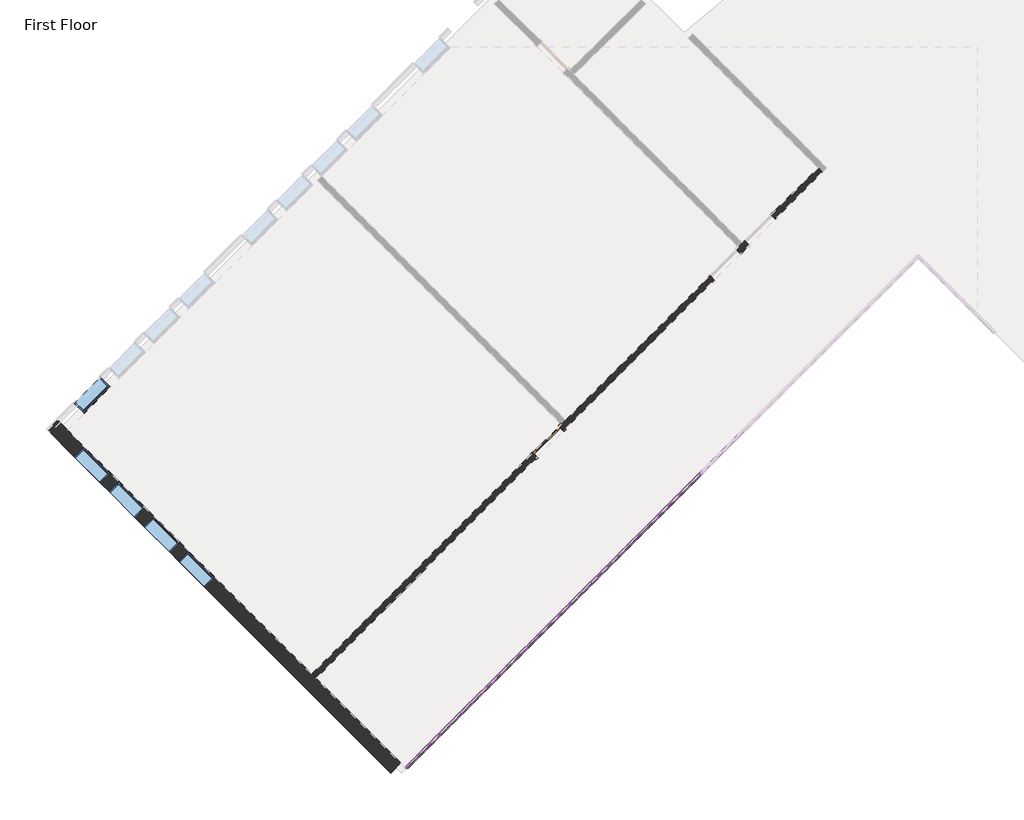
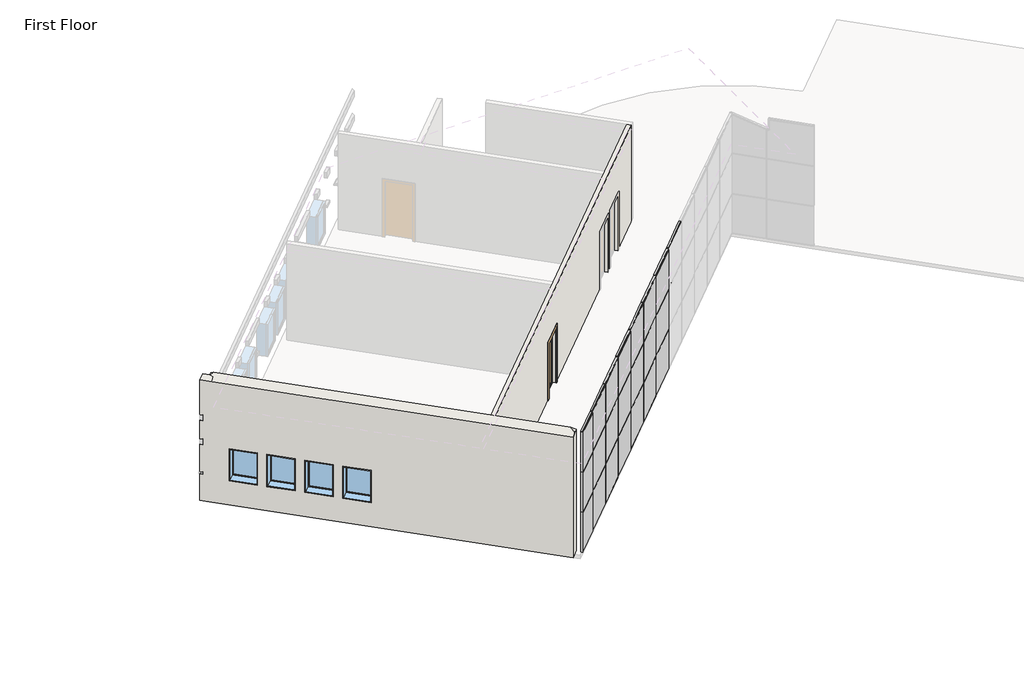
# One storey, part 1 of 5: 55 members, 21 plates, 5 windows, 2 walls, 1 door.
"""IFC4 building model written with IfcOpenShell, lengths in millimetres."""

from ifc_helpers import new_model, si_unit, origin, place, context, project, spatial, faceted_brep, transform, mapped, element, save
from components import door_b81abb0e, member_bd80eb51, member_155beb68, member_42be4715, member_6121af53, member_a3731390, member_b87a50da, system_panel_glazed_da345f4e, system_panel_glazed_b4114ee2, system_panel_solid_5fd6f37f, system_panel_solid_e1a07a15, system_panel_solid_2f1037e2, system_panel_solid_6e0f4c8d, window_15c49d37, window_0e2fc6ce

model = new_model("IFC4")

# Units and contexts
model_context = context("Model", 3, world=origin())
ifc_project = project(units=[si_unit("LENGTHUNIT", "METRE", prefix="MILLI")], contexts=[model_context])

# Site, building, storey
site = spatial("IfcSite", under=ifc_project)
building = spatial("IfcBuilding", under=site)
storey = spatial("IfcBuildingStorey", under=building, Name="First Floor", Elevation=0.0)

# Door
placement = place(None, origin())
door_shape = door_b81abb0e(model_context)
element("IfcDoor", 1, ObjectType="Single-Glass 1 : 36\" x 84\"", at=placement, inside=storey, context=model_context, shape_type="MappedRepresentation", body=[
    mapped(door_shape, transform((-12027.7718255, -1647.4849877, 0.0), x_axis=(0.7071067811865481, 0.7071067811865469, 0.0), y_axis=(-0.7071067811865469, 0.7071067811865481, 0.0), z_axis=(0.0, 0.0, 1.0))),
])

# Members
member_shape = member_bd80eb51(model_context)
element("IfcMember", 2, ObjectType="Rectangular Mullion : 1.5\" x 2.5\" Rectangular", at=placement, inside=storey, context=model_context, shape_type="MappedRepresentation", body=[
    mapped(member_shape, transform((-15523.4543029, -9702.8925106, 4572.0), x_axis=(0.0, 0.0, 1.0), y_axis=(-0.7071067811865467, 0.7071067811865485, 0.0), z_axis=(-0.7071067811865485, -0.7071067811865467, 0.0))),
])
member_2_shape = member_155beb68(model_context)
element("IfcMember", 3, ObjectType="Rectangular Mullion : 1.5\" x 2.5\" Rectangular", at=placement, inside=storey, context=model_context, shape_type="MappedRepresentation", body=[
    mapped(member_2_shape, transform((-8256.1820369, -2435.6202446, 0.0), x_axis=(-0.7071067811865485, -0.7071067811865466, 0.0), y_axis=(-0.7071067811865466, 0.7071067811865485, 0.0), z_axis=(0.0, 0.0, -1.0))),
])
element("IfcMember", 4, ObjectType="Rectangular Mullion : 1.5\" x 2.5\" Rectangular", at=placement, inside=storey, context=model_context, shape_type="MappedRepresentation", body=[
    mapped(member_2_shape, transform((-9333.8127715, -3513.2509792, 0.0), x_axis=(-0.7071067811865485, -0.7071067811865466, 0.0), y_axis=(-0.7071067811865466, 0.7071067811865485, 0.0), z_axis=(0.0, 0.0, -1.0))),
])
element("IfcMember", 5, ObjectType="Rectangular Mullion : 1.5\" x 2.5\" Rectangular", at=placement, inside=storey, context=model_context, shape_type="MappedRepresentation", body=[
    mapped(member_2_shape, transform((-10411.443506, -4590.8817137, 0.0), x_axis=(-0.7071067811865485, -0.7071067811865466, 0.0), y_axis=(-0.7071067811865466, 0.7071067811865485, 0.0), z_axis=(0.0, 0.0, -1.0))),
])
element("IfcMember", 6, ObjectType="Rectangular Mullion : 1.5\" x 2.5\" Rectangular", at=placement, inside=storey, context=model_context, shape_type="MappedRepresentation", body=[
    mapped(member_2_shape, transform((-11489.0742405, -5668.5124482, 0.0), x_axis=(-0.7071067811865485, -0.7071067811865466, 0.0), y_axis=(-0.7071067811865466, 0.7071067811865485, 0.0), z_axis=(0.0, 0.0, -1.0))),
])
element("IfcMember", 7, ObjectType="Rectangular Mullion : 1.5\" x 2.5\" Rectangular", at=placement, inside=storey, context=model_context, shape_type="MappedRepresentation", body=[
    mapped(member_2_shape, transform((-12566.7049751, -6746.1431827, 0.0), x_axis=(-0.7071067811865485, -0.7071067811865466, 0.0), y_axis=(-0.7071067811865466, 0.7071067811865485, 0.0), z_axis=(0.0, 0.0, -1.0))),
])
element("IfcMember", 8, ObjectType="Rectangular Mullion : 1.5\" x 2.5\" Rectangular", at=placement, inside=storey, context=model_context, shape_type="MappedRepresentation", body=[
    mapped(member_2_shape, transform((-13644.3357096, -7823.7739173, 0.0), x_axis=(-0.7071067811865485, -0.7071067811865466, 0.0), y_axis=(-0.7071067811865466, 0.7071067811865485, 0.0), z_axis=(0.0, 0.0, -1.0))),
])
element("IfcMember", 9, ObjectType="Rectangular Mullion : 1.5\" x 2.5\" Rectangular", at=placement, inside=storey, context=model_context, shape_type="MappedRepresentation", body=[
    mapped(member_2_shape, transform((-14721.9664441, -8901.4046518, 0.0), x_axis=(-0.7071067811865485, -0.7071067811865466, 0.0), y_axis=(-0.7071067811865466, 0.7071067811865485, 0.0), z_axis=(0.0, 0.0, -1.0))),
])
element("IfcMember", 10, ObjectType="Rectangular Mullion : 1.5\" x 2.5\" Rectangular", at=placement, inside=storey, context=model_context, shape_type="MappedRepresentation", body=[
    mapped(member_2_shape, transform((-8256.1820369, -2435.6202446, 3048.0), x_axis=(-0.7071067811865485, -0.7071067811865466, 0.0), y_axis=(-0.7071067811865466, 0.7071067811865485, 0.0), z_axis=(0.0, 0.0, -1.0))),
])
element("IfcMember", 11, ObjectType="Rectangular Mullion : 1.5\" x 2.5\" Rectangular", at=placement, inside=storey, context=model_context, shape_type="MappedRepresentation", body=[
    mapped(member_2_shape, transform((-9333.8127715, -3513.2509792, 3048.0), x_axis=(-0.7071067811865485, -0.7071067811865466, 0.0), y_axis=(-0.7071067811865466, 0.7071067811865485, 0.0), z_axis=(0.0, 0.0, -1.0))),
])
element("IfcMember", 12, ObjectType="Rectangular Mullion : 1.5\" x 2.5\" Rectangular", at=placement, inside=storey, context=model_context, shape_type="MappedRepresentation", body=[
    mapped(member_2_shape, transform((-10411.443506, -4590.8817137, 3048.0), x_axis=(-0.7071067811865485, -0.7071067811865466, 0.0), y_axis=(-0.7071067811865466, 0.7071067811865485, 0.0), z_axis=(0.0, 0.0, -1.0))),
])
element("IfcMember", 13, ObjectType="Rectangular Mullion : 1.5\" x 2.5\" Rectangular", at=placement, inside=storey, context=model_context, shape_type="MappedRepresentation", body=[
    mapped(member_2_shape, transform((-11489.0742405, -5668.5124482, 3048.0), x_axis=(-0.7071067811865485, -0.7071067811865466, 0.0), y_axis=(-0.7071067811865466, 0.7071067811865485, 0.0), z_axis=(0.0, 0.0, -1.0))),
])
element("IfcMember", 14, ObjectType="Rectangular Mullion : 1.5\" x 2.5\" Rectangular", at=placement, inside=storey, context=model_context, shape_type="MappedRepresentation", body=[
    mapped(member_2_shape, transform((-12566.7049751, -6746.1431827, 3048.0), x_axis=(-0.7071067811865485, -0.7071067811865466, 0.0), y_axis=(-0.7071067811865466, 0.7071067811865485, 0.0), z_axis=(0.0, 0.0, -1.0))),
])
element("IfcMember", 15, ObjectType="Rectangular Mullion : 1.5\" x 2.5\" Rectangular", at=placement, inside=storey, context=model_context, shape_type="MappedRepresentation", body=[
    mapped(member_2_shape, transform((-13644.3357096, -7823.7739173, 3048.0), x_axis=(-0.7071067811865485, -0.7071067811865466, 0.0), y_axis=(-0.7071067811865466, 0.7071067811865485, 0.0), z_axis=(0.0, 0.0, -1.0))),
])
element("IfcMember", 16, ObjectType="Rectangular Mullion : 1.5\" x 2.5\" Rectangular", at=placement, inside=storey, context=model_context, shape_type="MappedRepresentation", body=[
    mapped(member_2_shape, transform((-14721.9664441, -8901.4046518, 3048.0), x_axis=(-0.7071067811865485, -0.7071067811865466, 0.0), y_axis=(-0.7071067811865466, 0.7071067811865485, 0.0), z_axis=(0.0, 0.0, -1.0))),
])
element("IfcMember", 17, ObjectType="Rectangular Mullion : 1.5\" x 2.5\" Rectangular", at=placement, inside=storey, context=model_context, shape_type="MappedRepresentation", body=[
    mapped(member_2_shape, transform((-8256.1820369, -2435.6202446, 1524.0), x_axis=(-0.7071067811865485, -0.7071067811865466, 0.0), y_axis=(-0.7071067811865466, 0.7071067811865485, 0.0), z_axis=(0.0, 0.0, -1.0))),
])
element("IfcMember", 18, ObjectType="Rectangular Mullion : 1.5\" x 2.5\" Rectangular", at=placement, inside=storey, context=model_context, shape_type="MappedRepresentation", body=[
    mapped(member_2_shape, transform((-9333.8127715, -3513.2509792, 1524.0), x_axis=(-0.7071067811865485, -0.7071067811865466, 0.0), y_axis=(-0.7071067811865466, 0.7071067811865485, 0.0), z_axis=(0.0, 0.0, -1.0))),
])
element("IfcMember", 19, ObjectType="Rectangular Mullion : 1.5\" x 2.5\" Rectangular", at=placement, inside=storey, context=model_context, shape_type="MappedRepresentation", body=[
    mapped(member_2_shape, transform((-10411.443506, -4590.8817137, 1524.0), x_axis=(-0.7071067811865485, -0.7071067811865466, 0.0), y_axis=(-0.7071067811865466, 0.7071067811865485, 0.0), z_axis=(0.0, 0.0, -1.0))),
])
element("IfcMember", 20, ObjectType="Rectangular Mullion : 1.5\" x 2.5\" Rectangular", at=placement, inside=storey, context=model_context, shape_type="MappedRepresentation", body=[
    mapped(member_2_shape, transform((-11489.0742405, -5668.5124482, 1524.0), x_axis=(-0.7071067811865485, -0.7071067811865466, 0.0), y_axis=(-0.7071067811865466, 0.7071067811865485, 0.0), z_axis=(0.0, 0.0, -1.0))),
])
element("IfcMember", 21, ObjectType="Rectangular Mullion : 1.5\" x 2.5\" Rectangular", at=placement, inside=storey, context=model_context, shape_type="MappedRepresentation", body=[
    mapped(member_2_shape, transform((-12566.7049751, -6746.1431827, 1524.0), x_axis=(-0.7071067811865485, -0.7071067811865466, 0.0), y_axis=(-0.7071067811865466, 0.7071067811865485, 0.0), z_axis=(0.0, 0.0, -1.0))),
])
element("IfcMember", 22, ObjectType="Rectangular Mullion : 1.5\" x 2.5\" Rectangular", at=placement, inside=storey, context=model_context, shape_type="MappedRepresentation", body=[
    mapped(member_2_shape, transform((-13644.3357096, -7823.7739173, 1524.0), x_axis=(-0.7071067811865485, -0.7071067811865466, 0.0), y_axis=(-0.7071067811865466, 0.7071067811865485, 0.0), z_axis=(0.0, 0.0, -1.0))),
])
element("IfcMember", 23, ObjectType="Rectangular Mullion : 1.5\" x 2.5\" Rectangular", at=placement, inside=storey, context=model_context, shape_type="MappedRepresentation", body=[
    mapped(member_2_shape, transform((-14721.9664441, -8901.4046518, 1524.0), x_axis=(-0.7071067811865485, -0.7071067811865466, 0.0), y_axis=(-0.7071067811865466, 0.7071067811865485, 0.0), z_axis=(0.0, 0.0, -1.0))),
])
member_3_shape = member_42be4715(model_context)
element("IfcMember", 24, ObjectType="Rectangular Mullion : 1.5\" x 2.5\" Rectangular", at=placement, inside=storey, context=model_context, shape_type="MappedRepresentation", body=[
    mapped(member_3_shape, transform((-8242.7116528, -2422.1498604, 1524.0), x_axis=(0.0, 0.0, 1.0), y_axis=(-0.7071067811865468, 0.7071067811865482, 0.0), z_axis=(-0.7071067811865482, -0.7071067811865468, 0.0))),
])
element("IfcMember", 25, ObjectType="Rectangular Mullion : 1.5\" x 2.5\" Rectangular", at=placement, inside=storey, context=model_context, shape_type="MappedRepresentation", body=[
    mapped(member_3_shape, transform((-9320.3423873, -3499.780595, 1524.0), x_axis=(0.0, 0.0, 1.0), y_axis=(-0.7071067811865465, 0.7071067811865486, 0.0), z_axis=(-0.7071067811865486, -0.7071067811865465, 0.0))),
])
element("IfcMember", 26, ObjectType="Rectangular Mullion : 1.5\" x 2.5\" Rectangular", at=placement, inside=storey, context=model_context, shape_type="MappedRepresentation", body=[
    mapped(member_3_shape, transform((-10397.9731218, -4577.4113295, 1524.0), x_axis=(0.0, 0.0, 1.0), y_axis=(-0.7071067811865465, 0.7071067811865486, 0.0), z_axis=(-0.7071067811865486, -0.7071067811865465, 0.0))),
])
element("IfcMember", 27, ObjectType="Rectangular Mullion : 1.5\" x 2.5\" Rectangular", at=placement, inside=storey, context=model_context, shape_type="MappedRepresentation", body=[
    mapped(member_3_shape, transform((-11475.6038564, -5655.042064, 1524.0), x_axis=(0.0, 0.0, 1.0), y_axis=(-0.7071067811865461, 0.707106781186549, 0.0), z_axis=(-0.7071067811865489, -0.707106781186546, 0.0))),
])
element("IfcMember", 28, ObjectType="Rectangular Mullion : 1.5\" x 2.5\" Rectangular", at=placement, inside=storey, context=model_context, shape_type="MappedRepresentation", body=[
    mapped(member_3_shape, transform((-12553.2345909, -6732.6727986, 1524.0), x_axis=(0.0, 0.0, 1.0), y_axis=(-0.7071067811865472, 0.7071067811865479, 0.0), z_axis=(-0.7071067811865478, -0.7071067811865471, 0.0))),
])
element("IfcMember", 29, ObjectType="Rectangular Mullion : 1.5\" x 2.5\" Rectangular", at=placement, inside=storey, context=model_context, shape_type="MappedRepresentation", body=[
    mapped(member_3_shape, transform((-13630.8653254, -7810.3035331, 1524.0), x_axis=(0.0, 0.0, 1.0), y_axis=(-0.7071067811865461, 0.707106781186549, 0.0), z_axis=(-0.707106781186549, -0.7071067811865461, 0.0))),
])
element("IfcMember", 30, ObjectType="Rectangular Mullion : 1.5\" x 2.5\" Rectangular", at=placement, inside=storey, context=model_context, shape_type="MappedRepresentation", body=[
    mapped(member_3_shape, transform((-14708.4960599, -8887.9342676, 1524.0), x_axis=(0.0, 0.0, 1.0), y_axis=(-0.7071067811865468, 0.7071067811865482, 0.0), z_axis=(-0.7071067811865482, -0.7071067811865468, 0.0))),
])
element("IfcMember", 31, ObjectType="Rectangular Mullion : 1.5\" x 2.5\" Rectangular", at=placement, inside=storey, context=model_context, shape_type="MappedRepresentation", body=[
    mapped(member_3_shape, transform((-8242.7116528, -2422.1498604, 3048.0), x_axis=(0.0, 0.0, 1.0), y_axis=(-0.7071067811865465, 0.7071067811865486, 0.0), z_axis=(-0.7071067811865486, -0.7071067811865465, 0.0))),
])
element("IfcMember", 32, ObjectType="Rectangular Mullion : 1.5\" x 2.5\" Rectangular", at=placement, inside=storey, context=model_context, shape_type="MappedRepresentation", body=[
    mapped(member_3_shape, transform((-9320.3423873, -3499.780595, 3048.0), x_axis=(0.0, 0.0, 1.0), y_axis=(-0.7071067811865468, 0.7071067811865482, 0.0), z_axis=(-0.7071067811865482, -0.7071067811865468, 0.0))),
])
element("IfcMember", 33, ObjectType="Rectangular Mullion : 1.5\" x 2.5\" Rectangular", at=placement, inside=storey, context=model_context, shape_type="MappedRepresentation", body=[
    mapped(member_3_shape, transform((-10397.9731218, -4577.4113295, 3048.0), x_axis=(0.0, 0.0, 1.0), y_axis=(-0.7071067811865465, 0.7071067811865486, 0.0), z_axis=(-0.7071067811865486, -0.7071067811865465, 0.0))),
])
element("IfcMember", 34, ObjectType="Rectangular Mullion : 1.5\" x 2.5\" Rectangular", at=placement, inside=storey, context=model_context, shape_type="MappedRepresentation", body=[
    mapped(member_3_shape, transform((-11475.6038564, -5655.042064, 3048.0), x_axis=(0.0, 0.0, 1.0), y_axis=(-0.7071067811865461, 0.707106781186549, 0.0), z_axis=(-0.7071067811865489, -0.707106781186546, 0.0))),
])
element("IfcMember", 35, ObjectType="Rectangular Mullion : 1.5\" x 2.5\" Rectangular", at=placement, inside=storey, context=model_context, shape_type="MappedRepresentation", body=[
    mapped(member_3_shape, transform((-12553.2345909, -6732.6727986, 3048.0), x_axis=(0.0, 0.0, 1.0), y_axis=(-0.7071067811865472, 0.7071067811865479, 0.0), z_axis=(-0.7071067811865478, -0.7071067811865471, 0.0))),
])
element("IfcMember", 36, ObjectType="Rectangular Mullion : 1.5\" x 2.5\" Rectangular", at=placement, inside=storey, context=model_context, shape_type="MappedRepresentation", body=[
    mapped(member_3_shape, transform((-13630.8653254, -7810.3035331, 3048.0), x_axis=(0.0, 0.0, 1.0), y_axis=(-0.7071067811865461, 0.707106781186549, 0.0), z_axis=(-0.707106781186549, -0.7071067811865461, 0.0))),
])
element("IfcMember", 37, ObjectType="Rectangular Mullion : 1.5\" x 2.5\" Rectangular", at=placement, inside=storey, context=model_context, shape_type="MappedRepresentation", body=[
    mapped(member_3_shape, transform((-14708.4960599, -8887.9342676, 3048.0), x_axis=(0.0, 0.0, 1.0), y_axis=(-0.7071067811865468, 0.7071067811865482, 0.0), z_axis=(-0.7071067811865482, -0.7071067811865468, 0.0))),
])
member_4_shape = member_6121af53(model_context)
element("IfcMember", 38, ObjectType="Rectangular Mullion : 1.5\" x 2.5\" Rectangular", at=placement, inside=storey, context=model_context, shape_type="MappedRepresentation", body=[
    mapped(member_4_shape, transform((-8269.6524211, -2449.0906288, 0.0), x_axis=(0.0, 0.0, -1.0), y_axis=(-0.7071067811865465, 0.7071067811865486, 0.0), z_axis=(0.7071067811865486, 0.7071067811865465, 0.0))),
])
element("IfcMember", 39, ObjectType="Rectangular Mullion : 1.5\" x 2.5\" Rectangular", at=placement, inside=storey, context=model_context, shape_type="MappedRepresentation", body=[
    mapped(member_4_shape, transform((-9347.2831557, -3526.7213633, 0.0), x_axis=(0.0, 0.0, -1.0), y_axis=(-0.7071067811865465, 0.7071067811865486, 0.0), z_axis=(0.7071067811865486, 0.7071067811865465, 0.0))),
])
element("IfcMember", 40, ObjectType="Rectangular Mullion : 1.5\" x 2.5\" Rectangular", at=placement, inside=storey, context=model_context, shape_type="MappedRepresentation", body=[
    mapped(member_4_shape, transform((-10424.9138902, -4604.3520979, 0.0), x_axis=(0.0, 0.0, -1.0), y_axis=(-0.7071067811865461, 0.707106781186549, 0.0), z_axis=(0.7071067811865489, 0.707106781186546, 0.0))),
])
element("IfcMember", 41, ObjectType="Rectangular Mullion : 1.5\" x 2.5\" Rectangular", at=placement, inside=storey, context=model_context, shape_type="MappedRepresentation", body=[
    mapped(member_4_shape, transform((-11502.5446247, -5681.9828324, 0.0), x_axis=(0.0, 0.0, -1.0), y_axis=(-0.7071067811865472, 0.7071067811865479, 0.0), z_axis=(0.7071067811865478, 0.7071067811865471, 0.0))),
])
element("IfcMember", 42, ObjectType="Rectangular Mullion : 1.5\" x 2.5\" Rectangular", at=placement, inside=storey, context=model_context, shape_type="MappedRepresentation", body=[
    mapped(member_4_shape, transform((-12580.1753592, -6759.6135669, 0.0), x_axis=(0.0, 0.0, -1.0), y_axis=(-0.7071067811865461, 0.707106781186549, 0.0), z_axis=(0.707106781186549, 0.7071067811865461, 0.0))),
])
element("IfcMember", 43, ObjectType="Rectangular Mullion : 1.5\" x 2.5\" Rectangular", at=placement, inside=storey, context=model_context, shape_type="MappedRepresentation", body=[
    mapped(member_4_shape, transform((-13657.8060938, -7837.2443014, 0.0), x_axis=(0.0, 0.0, -1.0), y_axis=(-0.7071067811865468, 0.7071067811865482, 0.0), z_axis=(0.7071067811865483, 0.7071067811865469, 0.0))),
])
element("IfcMember", 44, ObjectType="Rectangular Mullion : 1.5\" x 2.5\" Rectangular", at=placement, inside=storey, context=model_context, shape_type="MappedRepresentation", body=[
    mapped(member_shape, transform((-14735.4368283, -8914.875036, 0.0), x_axis=(0.0, 0.0, -1.0), y_axis=(-0.7071067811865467, 0.7071067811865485, 0.0), z_axis=(0.7071067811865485, 0.7071067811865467, 0.0))),
])
element("IfcMember", 45, ObjectType="Rectangular Mullion : 1.5\" x 2.5\" Rectangular", at=placement, inside=storey, context=model_context, shape_type="MappedRepresentation", body=[
    mapped(member_4_shape, transform((-8242.7116528, -2422.1498604, 4572.0), x_axis=(0.0, 0.0, 1.0), y_axis=(-0.7071067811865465, 0.7071067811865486, 0.0), z_axis=(-0.7071067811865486, -0.7071067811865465, 0.0))),
])
element("IfcMember", 46, ObjectType="Rectangular Mullion : 1.5\" x 2.5\" Rectangular", at=placement, inside=storey, context=model_context, shape_type="MappedRepresentation", body=[
    mapped(member_4_shape, transform((-9320.3423873, -3499.780595, 4572.0), x_axis=(0.0, 0.0, 1.0), y_axis=(-0.7071067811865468, 0.7071067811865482, 0.0), z_axis=(-0.7071067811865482, -0.7071067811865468, 0.0))),
])
element("IfcMember", 47, ObjectType="Rectangular Mullion : 1.5\" x 2.5\" Rectangular", at=placement, inside=storey, context=model_context, shape_type="MappedRepresentation", body=[
    mapped(member_4_shape, transform((-10397.9731218, -4577.4113295, 4572.0), x_axis=(0.0, 0.0, 1.0), y_axis=(-0.7071067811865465, 0.7071067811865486, 0.0), z_axis=(-0.7071067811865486, -0.7071067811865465, 0.0))),
])
element("IfcMember", 48, ObjectType="Rectangular Mullion : 1.5\" x 2.5\" Rectangular", at=placement, inside=storey, context=model_context, shape_type="MappedRepresentation", body=[
    mapped(member_4_shape, transform((-11475.6038564, -5655.042064, 4572.0), x_axis=(0.0, 0.0, 1.0), y_axis=(-0.7071067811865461, 0.707106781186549, 0.0), z_axis=(-0.7071067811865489, -0.707106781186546, 0.0))),
])
element("IfcMember", 49, ObjectType="Rectangular Mullion : 1.5\" x 2.5\" Rectangular", at=placement, inside=storey, context=model_context, shape_type="MappedRepresentation", body=[
    mapped(member_4_shape, transform((-12553.2345909, -6732.6727986, 4572.0), x_axis=(0.0, 0.0, 1.0), y_axis=(-0.7071067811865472, 0.7071067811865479, 0.0), z_axis=(-0.7071067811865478, -0.7071067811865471, 0.0))),
])
element("IfcMember", 50, ObjectType="Rectangular Mullion : 1.5\" x 2.5\" Rectangular", at=placement, inside=storey, context=model_context, shape_type="MappedRepresentation", body=[
    mapped(member_4_shape, transform((-13630.8653254, -7810.3035331, 4572.0), x_axis=(0.0, 0.0, 1.0), y_axis=(-0.7071067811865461, 0.707106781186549, 0.0), z_axis=(-0.707106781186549, -0.7071067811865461, 0.0))),
])
element("IfcMember", 51, ObjectType="Rectangular Mullion : 1.5\" x 2.5\" Rectangular", at=placement, inside=storey, context=model_context, shape_type="MappedRepresentation", body=[
    mapped(member_4_shape, transform((-14708.4960599, -8887.9342676, 4572.0), x_axis=(0.0, 0.0, 1.0), y_axis=(-0.7071067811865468, 0.7071067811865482, 0.0), z_axis=(-0.7071067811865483, -0.7071067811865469, 0.0))),
])
member_5_shape = member_a3731390(model_context)
element("IfcMember", 52, ObjectType="Rectangular Mullion : 1.5\" x 2.5\" Rectangular", at=placement, inside=storey, context=model_context, shape_type="MappedRepresentation", body=[
    mapped(member_5_shape, transform((-15523.4543029, -9702.8925106, 1524.0), x_axis=(0.0, 0.0, 1.0), y_axis=(-0.7071067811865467, 0.7071067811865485, 0.0), z_axis=(-0.7071067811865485, -0.7071067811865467, 0.0))),
])
element("IfcMember", 53, ObjectType="Rectangular Mullion : 1.5\" x 2.5\" Rectangular", at=placement, inside=storey, context=model_context, shape_type="MappedRepresentation", body=[
    mapped(member_5_shape, transform((-15523.4543029, -9702.8925106, 3048.0), x_axis=(0.0, 0.0, 1.0), y_axis=(-0.7071067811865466, 0.7071067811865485, 0.0), z_axis=(-0.7071067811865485, -0.7071067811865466, 0.0))),
])
member_6_shape = member_b87a50da(model_context)
element("IfcMember", 54, ObjectType="Rectangular Mullion : 1.5\" x 2.5\" Rectangular", at=placement, inside=storey, context=model_context, shape_type="MappedRepresentation", body=[
    mapped(member_6_shape, transform((-15550.3950713, -9729.833279, 0.0), x_axis=(-0.7071067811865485, -0.7071067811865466, 0.0), y_axis=(-0.7071067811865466, 0.7071067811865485, 0.0), z_axis=(0.0, 0.0, -1.0))),
])
element("IfcMember", 55, ObjectType="Rectangular Mullion : 1.5\" x 2.5\" Rectangular", at=placement, inside=storey, context=model_context, shape_type="MappedRepresentation", body=[
    mapped(member_6_shape, transform((-15550.3950713, -9729.833279, 1524.0), x_axis=(-0.7071067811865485, -0.7071067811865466, 0.0), y_axis=(-0.7071067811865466, 0.7071067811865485, 0.0), z_axis=(0.0, 0.0, -1.0))),
])
element("IfcMember", 56, ObjectType="Rectangular Mullion : 1.5\" x 2.5\" Rectangular", at=placement, inside=storey, context=model_context, shape_type="MappedRepresentation", body=[
    mapped(member_6_shape, transform((-15550.3950713, -9729.833279, 3048.0), x_axis=(-0.7071067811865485, -0.7071067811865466, 0.0), y_axis=(-0.7071067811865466, 0.7071067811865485, 0.0), z_axis=(0.0, 0.0, -1.0))),
])

# Plates
system_panel_glazed_shape = system_panel_glazed_da345f4e(model_context)
element("IfcPlate", 57, ObjectType="System Panel : Glazed", at=placement, inside=storey, context=model_context, shape_type="MappedRepresentation", body=[
    mapped(system_panel_glazed_shape, transform((-8794.9974042, -2974.4356119, 38.1), x_axis=(-0.7071067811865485, -0.7071067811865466, 0.0), y_axis=(0.7071067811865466, -0.7071067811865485, 0.0), z_axis=(0.0, 0.0, 1.0))),
])
element("IfcPlate", 58, ObjectType="System Panel : Glazed", at=placement, inside=storey, context=model_context, shape_type="MappedRepresentation", body=[
    mapped(system_panel_glazed_shape, transform((-9872.6281387, -4052.0663464, 38.1), x_axis=(-0.7071067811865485, -0.7071067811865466, 0.0), y_axis=(0.7071067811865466, -0.7071067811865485, 0.0), z_axis=(0.0, 0.0, 1.0))),
])
element("IfcPlate", 59, ObjectType="System Panel : Glazed", at=placement, inside=storey, context=model_context, shape_type="MappedRepresentation", body=[
    mapped(system_panel_glazed_shape, transform((-10950.2588733, -5129.6970809, 38.1), x_axis=(-0.7071067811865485, -0.7071067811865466, 0.0), y_axis=(0.7071067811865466, -0.7071067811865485, 0.0), z_axis=(0.0, 0.0, 1.0))),
])
element("IfcPlate", 60, ObjectType="System Panel : Glazed", at=placement, inside=storey, context=model_context, shape_type="MappedRepresentation", body=[
    mapped(system_panel_glazed_shape, transform((-12027.8896078, -6207.3278155, 38.1), x_axis=(-0.7071067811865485, -0.7071067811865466, 0.0), y_axis=(0.7071067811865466, -0.7071067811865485, 0.0), z_axis=(0.0, 0.0, 1.0))),
])
element("IfcPlate", 61, ObjectType="System Panel : Glazed", at=placement, inside=storey, context=model_context, shape_type="MappedRepresentation", body=[
    mapped(system_panel_glazed_shape, transform((-13105.5203423, -7284.95855, 38.1), x_axis=(-0.7071067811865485, -0.7071067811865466, 0.0), y_axis=(0.7071067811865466, -0.7071067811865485, 0.0), z_axis=(0.0, 0.0, 1.0))),
])
element("IfcPlate", 62, ObjectType="System Panel : Glazed", at=placement, inside=storey, context=model_context, shape_type="MappedRepresentation", body=[
    mapped(system_panel_glazed_shape, transform((-14183.1510769, -8362.5892845, 38.1), x_axis=(-0.7071067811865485, -0.7071067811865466, 0.0), y_axis=(0.7071067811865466, -0.7071067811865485, 0.0), z_axis=(0.0, 0.0, 1.0))),
])
system_panel_glazed_2_shape = system_panel_glazed_b4114ee2(model_context)
element("IfcPlate", 63, ObjectType="System Panel : Glazed", at=placement, inside=storey, context=model_context, shape_type="MappedRepresentation", body=[
    mapped(system_panel_glazed_2_shape, transform((-15129.4455656, -9308.8837733, 38.1), x_axis=(-0.7071067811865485, -0.7071067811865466, 0.0), y_axis=(0.7071067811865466, -0.7071067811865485, 0.0), z_axis=(0.0, 0.0, 1.0))),
])
system_panel_solid_shape = system_panel_solid_5fd6f37f(model_context)
element("IfcPlate", 64, ObjectType="System Panel : Solid", at=placement, inside=storey, context=model_context, shape_type="MappedRepresentation", body=[
    mapped(system_panel_solid_shape, transform((-8794.9974042, -2974.4356119, 1543.05), x_axis=(-0.7071067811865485, -0.7071067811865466, 0.0), y_axis=(0.7071067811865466, -0.7071067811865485, 0.0), z_axis=(0.0, 0.0, 1.0))),
])
element("IfcPlate", 65, ObjectType="System Panel : Solid", at=placement, inside=storey, context=model_context, shape_type="MappedRepresentation", body=[
    mapped(system_panel_solid_shape, transform((-9872.6281387, -4052.0663464, 1543.05), x_axis=(-0.7071067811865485, -0.7071067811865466, 0.0), y_axis=(0.7071067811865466, -0.7071067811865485, 0.0), z_axis=(0.0, 0.0, 1.0))),
])
element("IfcPlate", 66, ObjectType="System Panel : Solid", at=placement, inside=storey, context=model_context, shape_type="MappedRepresentation", body=[
    mapped(system_panel_solid_shape, transform((-10950.2588733, -5129.6970809, 1543.05), x_axis=(-0.7071067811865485, -0.7071067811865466, 0.0), y_axis=(0.7071067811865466, -0.7071067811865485, 0.0), z_axis=(0.0, 0.0, 1.0))),
])
element("IfcPlate", 67, ObjectType="System Panel : Solid", at=placement, inside=storey, context=model_context, shape_type="MappedRepresentation", body=[
    mapped(system_panel_solid_shape, transform((-12027.8896078, -6207.3278155, 1543.05), x_axis=(-0.7071067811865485, -0.7071067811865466, 0.0), y_axis=(0.7071067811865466, -0.7071067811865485, 0.0), z_axis=(0.0, 0.0, 1.0))),
])
element("IfcPlate", 68, ObjectType="System Panel : Solid", at=placement, inside=storey, context=model_context, shape_type="MappedRepresentation", body=[
    mapped(system_panel_solid_shape, transform((-13105.5203423, -7284.95855, 1543.05), x_axis=(-0.7071067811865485, -0.7071067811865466, 0.0), y_axis=(0.7071067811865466, -0.7071067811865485, 0.0), z_axis=(0.0, 0.0, 1.0))),
])
element("IfcPlate", 69, ObjectType="System Panel : Solid", at=placement, inside=storey, context=model_context, shape_type="MappedRepresentation", body=[
    mapped(system_panel_solid_shape, transform((-14183.1510769, -8362.5892845, 1543.05), x_axis=(-0.7071067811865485, -0.7071067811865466, 0.0), y_axis=(0.7071067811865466, -0.7071067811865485, 0.0), z_axis=(0.0, 0.0, 1.0))),
])
system_panel_solid_2_shape = system_panel_solid_e1a07a15(model_context)
element("IfcPlate", 70, ObjectType="System Panel : Solid", at=placement, inside=storey, context=model_context, shape_type="MappedRepresentation", body=[
    mapped(system_panel_solid_2_shape, transform((-15129.4455656, -9308.8837733, 1543.05), x_axis=(-0.7071067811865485, -0.7071067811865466, 0.0), y_axis=(0.7071067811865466, -0.7071067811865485, 0.0), z_axis=(0.0, 0.0, 1.0))),
])
system_panel_solid_3_shape = system_panel_solid_2f1037e2(model_context)
element("IfcPlate", 71, ObjectType="System Panel : Solid", at=placement, inside=storey, context=model_context, shape_type="MappedRepresentation", body=[
    mapped(system_panel_solid_3_shape, transform((-8794.9974042, -2974.4356119, 3067.05), x_axis=(-0.7071067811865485, -0.7071067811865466, 0.0), y_axis=(0.7071067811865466, -0.7071067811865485, 0.0), z_axis=(0.0, 0.0, 1.0))),
])
element("IfcPlate", 72, ObjectType="System Panel : Solid", at=placement, inside=storey, context=model_context, shape_type="MappedRepresentation", body=[
    mapped(system_panel_solid_3_shape, transform((-9872.6281387, -4052.0663464, 3067.05), x_axis=(-0.7071067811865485, -0.7071067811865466, 0.0), y_axis=(0.7071067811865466, -0.7071067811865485, 0.0), z_axis=(0.0, 0.0, 1.0))),
])
element("IfcPlate", 73, ObjectType="System Panel : Solid", at=placement, inside=storey, context=model_context, shape_type="MappedRepresentation", body=[
    mapped(system_panel_solid_3_shape, transform((-10950.2588733, -5129.6970809, 3067.05), x_axis=(-0.7071067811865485, -0.7071067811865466, 0.0), y_axis=(0.7071067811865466, -0.7071067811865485, 0.0), z_axis=(0.0, 0.0, 1.0))),
])
element("IfcPlate", 74, ObjectType="System Panel : Solid", at=placement, inside=storey, context=model_context, shape_type="MappedRepresentation", body=[
    mapped(system_panel_solid_3_shape, transform((-12027.8896078, -6207.3278155, 3067.05), x_axis=(-0.7071067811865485, -0.7071067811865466, 0.0), y_axis=(0.7071067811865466, -0.7071067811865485, 0.0), z_axis=(0.0, 0.0, 1.0))),
])
element("IfcPlate", 75, ObjectType="System Panel : Solid", at=placement, inside=storey, context=model_context, shape_type="MappedRepresentation", body=[
    mapped(system_panel_solid_3_shape, transform((-13105.5203423, -7284.95855, 3067.05), x_axis=(-0.7071067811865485, -0.7071067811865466, 0.0), y_axis=(0.7071067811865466, -0.7071067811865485, 0.0), z_axis=(0.0, 0.0, 1.0))),
])
element("IfcPlate", 76, ObjectType="System Panel : Solid", at=placement, inside=storey, context=model_context, shape_type="MappedRepresentation", body=[
    mapped(system_panel_solid_3_shape, transform((-14183.1510769, -8362.5892845, 3067.05), x_axis=(-0.7071067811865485, -0.7071067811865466, 0.0), y_axis=(0.7071067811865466, -0.7071067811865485, 0.0), z_axis=(0.0, 0.0, 1.0))),
])
system_panel_solid_4_shape = system_panel_solid_6e0f4c8d(model_context)
element("IfcPlate", 77, ObjectType="System Panel : Solid", at=placement, inside=storey, context=model_context, shape_type="MappedRepresentation", body=[
    mapped(system_panel_solid_4_shape, transform((-15129.4455656, -9308.8837733, 3067.05), x_axis=(-0.7071067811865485, -0.7071067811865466, 0.0), y_axis=(0.7071067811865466, -0.7071067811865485, 0.0), z_axis=(0.0, 0.0, 1.0))),
])

# Walls
element("IfcWall", 78, ObjectType="Exterior - Brick on Mtl. Stud", at=placement, inside=storey, context=model_context, shape_type="Brep", body=[
    faceted_brep([(-15674.996125, -9605.2322253, 4630.7375), (-15674.996125, -9605.2322253, 0.0), (-17775.2535253, -7504.974825, 0.0), (-17885.2616628, -7394.9666875, 0.0), (-23922.2388402, -1357.9895101, 0.0), (-24038.9821697, -1241.2461805, 0.0), (-24171.4409475, -1108.7874027, 0.0), (-24171.4409475, -1108.7874027, 1016.0), (-24106.3340906, -1173.8942596, 1016.0), (-24106.3340906, -1173.8942596, 1085.85), (-24171.4409475, -1108.7874027, 1085.85), (-24171.4409475, -1108.7874027, 2133.6), (-24106.3340906, -1173.8942596, 2133.6), (-24106.3340906, -1173.8942596, 2336.8), (-24171.4409475, -1108.7874027, 2336.8), (-24171.4409475, -1108.7874027, 3048.0), (-24106.3340906, -1173.8942596, 3048.0), (-24106.3340906, -1173.8942596, 3251.2), (-24171.4409475, -1108.7874027, 3251.2), (-24171.4409475, -1108.7874027, 4572.0), (-23922.2388402, -1357.9895101, 4572.0), (-23902.0332639, -1378.1950864, 4572.0), (-23902.0332639, -1378.1950864, 4635.5), (-23922.2388402, -1357.9895101, 4639.3965909), (-23997.6295387, -1282.5988115, 4653.9354839), (-23922.2388402, -1357.9895101, 4689.475), (-15799.5971786, -9480.6311716, 4689.475), (-20921.7107637, -4358.5175865, 2133.6), (-20921.7107637, -4358.5175865, 914.4), (-20275.132323, -5005.0960273, 914.4), (-20275.132323, -5005.0960273, 2133.6), (-21783.8153513, -3496.4129989, 2133.6), (-21783.8153513, -3496.4129989, 914.4), (-21137.2369106, -4142.9914396, 914.4), (-21137.2369106, -4142.9914396, 2133.6), (-22645.9199389, -2634.3084113, 2133.6), (-22645.9199389, -2634.3084113, 914.4), (-21999.3414982, -3280.886852, 914.4), (-21999.3414982, -3280.886852, 2133.6), (-23508.0245266, -1772.2038237, 2133.6), (-23508.0245266, -1772.2038237, 914.4), (-22861.4460859, -2418.7822644, 914.4), (-22861.4460859, -2418.7822644, 2133.6), (-15924.1982323, -9854.4343326, 0.0), (-15924.1982323, -9854.4343326, 4572.0), (-24151.2353712, -1627.3971937, 4572.0), (-24420.6430549, -1357.9895101, 4572.0), (-24420.6430549, -1357.9895101, 3251.2), (-24355.536198, -1423.096367, 3251.2), (-24355.536198, -1423.096367, 3048.0), (-24420.6430549, -1357.9895101, 3048.0), (-24420.6430549, -1357.9895101, 2336.8), (-24355.536198, -1423.096367, 2336.8), (-24355.536198, -1423.096367, 2133.6), (-24420.6430549, -1357.9895101, 2133.6), (-24420.6430549, -1357.9895101, 1085.85), (-24355.536198, -1423.096367, 1085.85), (-24355.536198, -1423.096367, 1016.0), (-24420.6430549, -1357.9895101, 1016.0), (-24420.6430549, -1357.9895101, 0.0), (-24288.1842771, -1490.4482879, 0.0), (-21170.9128711, -4607.7196939, 914.4), (-21170.9128711, -4607.7196939, 2133.6), (-20524.3344303, -5254.2981346, 2133.6), (-20524.3344303, -5254.2981346, 914.4), (-22033.0174587, -3745.6151063, 914.4), (-22033.0174587, -3745.6151063, 2133.6), (-21386.439018, -4392.193547, 2133.6), (-21386.439018, -4392.193547, 914.4), (-22895.1220463, -2883.5105187, 914.4), (-22895.1220463, -2883.5105187, 2133.6), (-22248.5436056, -3530.0889594, 2133.6), (-22248.5436056, -3530.0889594, 914.4), (-23757.2266339, -2021.405931, 914.4), (-23757.2266339, -2021.405931, 2133.6), (-23110.6481932, -2667.9843718, 2133.6), (-23110.6481932, -2667.9843718, 914.4), (-15799.5971786, -9729.833279, 4630.7375), (-15791.7394545, -9721.9755549, 0.0), (-24288.1842771, -1225.5307323, 0.0), (-24073.0202373, -1357.9895101, 4653.9354839), (-24016.5315294, -1492.6933519, 4635.5), (-24155.7254993, -1357.9895101, 0.0)], [[[0, 1, 2, 3, 4, 5, 6, 7, 8, 9, 10, 11, 12, 13, 14, 15, 16, 17, 18, 19, 20, 21, 22, 23, 24, 25, 26], [27, 28, 29, 30], [31, 32, 33, 34], [35, 36, 37, 38], [39, 40, 41, 42]], [[43, 44, 45, 46, 47, 48, 49, 50, 51, 52, 53, 54, 55, 56, 57, 58, 59, 60], [61, 62, 63, 64], [65, 66, 67, 68], [69, 70, 71, 72], [73, 74, 75, 76]], [[1, 0, 77, 44, 43, 78]], [[79, 59, 58, 7, 6]], [[10, 55, 54, 11]], [[14, 51, 50, 15]], [[19, 18, 47, 46]], [[0, 26, 77]], [[26, 25, 80, 81, 45, 44, 77]], [[25, 24, 80]], [[43, 60, 82, 78]], [[6, 5, 82, 79]], [[60, 59, 79, 82]], [[5, 4, 3, 2, 1, 78, 82]], [[28, 27, 62, 61]], [[29, 28, 61, 64]], [[30, 29, 64, 63]], [[27, 30, 63, 62]], [[32, 31, 66, 65]], [[33, 32, 65, 68]], [[34, 33, 68, 67]], [[31, 34, 67, 66]], [[36, 35, 70, 69]], [[37, 36, 69, 72]], [[38, 37, 72, 71]], [[35, 38, 71, 70]], [[40, 39, 74, 73]], [[41, 40, 73, 76]], [[42, 41, 76, 75]], [[39, 42, 75, 74]], [[9, 56, 55, 10]], [[57, 8, 7, 58]], [[56, 9, 8, 57]], [[53, 12, 11, 54]], [[12, 53, 52, 13]], [[13, 52, 51, 14]], [[49, 16, 15, 50]], [[16, 49, 48, 17]], [[17, 48, 47, 18]], [[22, 81, 80, 24, 23]], [[45, 21, 20, 19, 46]], [[81, 22, 21, 45]]]),
])
element("IfcWall", 79, ObjectType="Interior - 6 1/8\" Partition (2-hr)", at=placement, inside=storey, context=model_context, shape_type="Brep", body=[
    faceted_brep([(-7264.9862676, 3005.2924327, 0.0), (-7049.4601207, 3220.8185796, 0.0), (-7049.4601207, 3220.8185796, 2133.6), (-6402.88168, 3867.3970204, 2133.6), (-6402.88168, 3867.3970204, 0.0), (-5238.5804157, 5031.6982846, 0.0), (-5238.5804157, 5031.6982846, 3657.6), (-17775.2535253, -7504.974825, 3657.6), (-17775.2535253, -7504.974825, 0.0), (-12296.0569771, -2025.7782768, 0.0), (-12296.0569771, -2025.7782768, 2133.6), (-11649.4785364, -1379.1998361, 2133.6), (-11649.4785364, -1379.1998361, 0.0), (-7911.5647083, 2358.713992, 0.0), (-7911.5647083, 2358.713992, 2133.6), (-7264.9862676, 3005.2924327, 2133.6), (-7159.4682582, 3330.8267171, 2133.6), (-7159.4682582, 3330.8267171, 0.0), (-7212.2272629, 3278.0677124, 0.0), (-7322.2354004, 3168.0595749, 0.0), (-7374.9944051, 3115.3005702, 0.0), (-7374.9944051, 3115.3005702, 2133.6), (-8021.5728458, 2468.7221295, 2133.6), (-8021.5728458, 2468.7221295, 0.0), (-11596.7195317, -1106.4245564, 0.0), (-11706.7276692, -1216.4326939, 0.0), (-11759.4866739, -1269.1916986, 0.0), (-11759.4866739, -1269.1916986, 2133.6), (-12406.0651146, -1915.7701393, 2133.6), (-12406.0651146, -1915.7701393, 0.0), (-17885.2616628, -7394.9666875, 0.0), (-17885.2616628, -7394.9666875, 3657.6), (-11706.7276692, -1216.4326939, 3657.6), (-11596.7195317, -1106.4245564, 3657.6), (-7322.2354004, 3168.0595749, 3657.6), (-7212.2272629, 3278.0677124, 3657.6), (-5348.5885532, 5141.7064221, 3657.6), (-5348.5885532, 5141.7064221, 0.0), (-6512.8898174, 3977.4051578, 0.0), (-6512.8898174, 3977.4051578, 2133.6)], [[[0, 1, 2, 3, 4, 5, 6, 7, 8, 9, 10, 11, 12, 13, 14, 15]], [[16, 17, 18, 19, 20, 21, 22, 23, 24, 25, 26, 27, 28, 29, 30, 31, 32, 33, 34, 35, 36, 37, 38, 39]], [[20, 19, 18, 17, 1, 0]], [[9, 8, 30, 29]], [[13, 12, 26, 25, 24, 23]], [[38, 37, 5, 4]], [[7, 6, 36, 35, 34, 33, 32, 31]], [[8, 7, 31, 30]], [[6, 5, 37, 36]], [[27, 26, 12, 11]], [[28, 27, 11, 10]], [[29, 28, 10, 9]], [[21, 20, 0, 15]], [[22, 21, 15, 14]], [[23, 22, 14, 13]], [[2, 1, 17, 16]], [[3, 2, 16, 39]], [[4, 3, 39, 38]]]),
])

# Windows
window_shape = window_15c49d37(model_context)
element("IfcWindow", 80, ObjectType="Fixed : 36\" x 48\"", at=placement, inside=storey, context=model_context, shape_type="MappedRepresentation", body=[
    mapped(window_shape, transform((-23336.2771283, -522.8256908, 0.0), x_axis=(-0.7071067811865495, -0.7071067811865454, 0.0), y_axis=(0.7071067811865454, -0.7071067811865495, 0.0), z_axis=(0.0, 0.0, 1.0))),
])
window_2_shape = window_0e2fc6ce(model_context)
element("IfcWindow", 81, ObjectType="Fixed : 36\" x 48\"", at=placement, inside=storey, context=model_context, shape_type="MappedRepresentation", body=[
    mapped(window_2_shape, transform((-23336.2771283, -2193.1533294, 0.0), x_axis=(-0.7071067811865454, 0.7071067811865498, 0.0), y_axis=(-0.7071067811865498, -0.7071067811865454, 0.0), z_axis=(0.0, 0.0, 1.0))),
])
element("IfcWindow", 82, ObjectType="Fixed : 36\" x 48\"", at=placement, inside=storey, context=model_context, shape_type="MappedRepresentation", body=[
    mapped(window_2_shape, transform((-22474.1725406, -3055.257917, 0.0), x_axis=(-0.7071067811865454, 0.7071067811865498, 0.0), y_axis=(-0.7071067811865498, -0.7071067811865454, 0.0), z_axis=(0.0, 0.0, 1.0))),
])
element("IfcWindow", 83, ObjectType="Fixed : 36\" x 48\"", at=placement, inside=storey, context=model_context, shape_type="MappedRepresentation", body=[
    mapped(window_2_shape, transform((-21612.067953, -3917.3625046, 0.0), x_axis=(-0.7071067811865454, 0.7071067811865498, 0.0), y_axis=(-0.7071067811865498, -0.7071067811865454, 0.0), z_axis=(0.0, 0.0, 1.0))),
])
element("IfcWindow", 84, ObjectType="Fixed : 36\" x 48\"", at=placement, inside=storey, context=model_context, shape_type="MappedRepresentation", body=[
    mapped(window_2_shape, transform((-20749.9633654, -4779.4670922, 0.0), x_axis=(-0.7071067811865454, 0.7071067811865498, 0.0), y_axis=(-0.7071067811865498, -0.7071067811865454, 0.0), z_axis=(0.0, 0.0, 1.0))),
])

save(model, "model.ifc")
